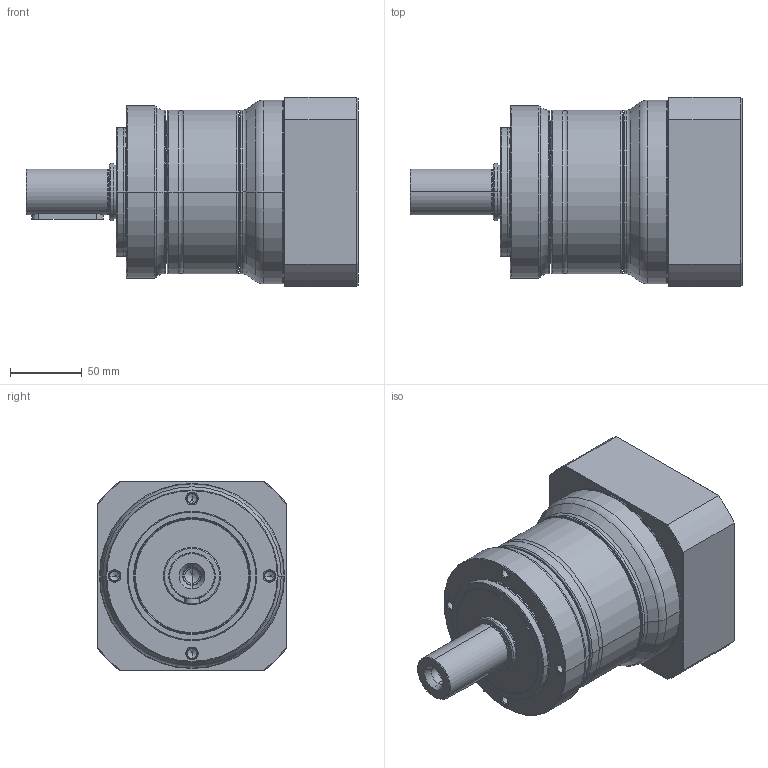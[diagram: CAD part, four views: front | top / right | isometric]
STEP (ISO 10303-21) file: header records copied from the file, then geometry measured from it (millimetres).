
FILE_DESCRIPTION((''),'2;1');
FILE_NAME('PE2-120_1ST_35-P0411800101_ASM','2016-04-26T',('d00435'),(''),'PRO/ENGINEER BY PARAMETRIC TECHNOLOGY CORPORATION, 2008410','PRO/ENGINEER BY PARAMETRIC TECHNOLOGY CORPORATION, 2008410','');
FILE_SCHEMA(('CONFIG_CONTROL_DESIGN'));
Length unit declared in the file: millimetre
Products named in the file (9): P1323410001; P0250400001; P1324400401; P0350401001; P0941404001; P0503800010; P0411800101; P1702600001; PE2-120_1ST_35-P0411800101_ASM
Assembly tree (8 placements, depth 2):
  PE2-120_1ST_35-P0411800101_ASM
    P1323410001
    P0250400001
    P1324400401
    P0350401001
    P0941404001
    P0503800010
    P0411800101
    P1702600001
Bounding box: 231.5 x 132 x 132 mm (x, y, z)
Volume: 1600416.8 mm3; surface area: 279387.9 mm2
Topology: 8 solids, 22 shells, 524 faces, 1171 edges, 692 vertices
Faces by surface type: cylinder 166, cone 144, torus 102, plane 96, bspline 16
Entity records: 19323 total; most frequent: CARTESIAN_POINT 7343, DIRECTION 2761, ORIENTED_EDGE 2214, AXIS2_PLACEMENT_3D 1194, EDGE_CURVE 1135, VERTEX_POINT 692, CIRCLE 659, EDGE_LOOP 605
